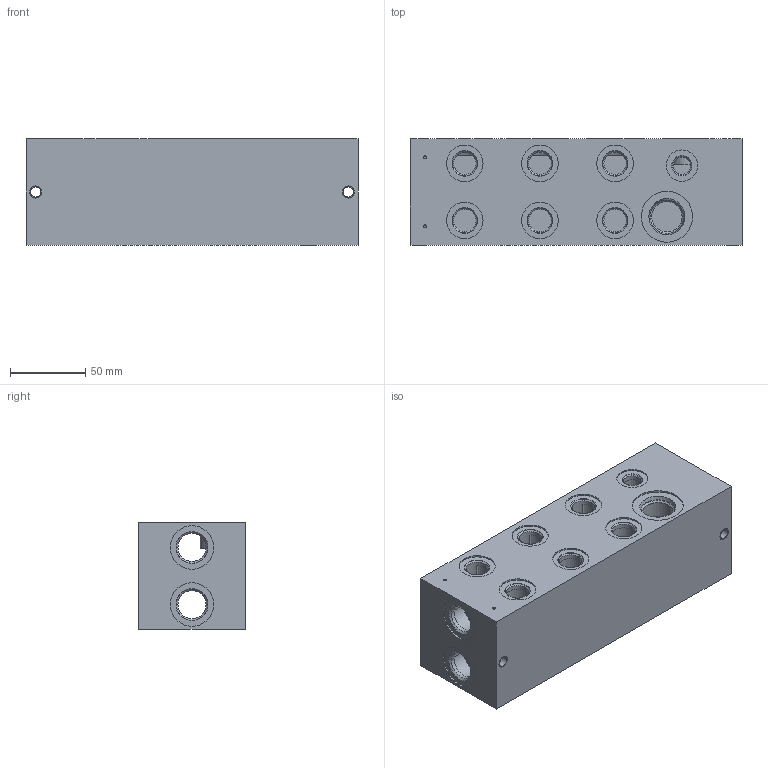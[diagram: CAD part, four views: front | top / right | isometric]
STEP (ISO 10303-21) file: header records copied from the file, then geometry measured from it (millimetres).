
FILE_DESCRIPTION((''),'2;1');
FILE_NAME('27564500','2015-11-27T',('Ahcz.brigadnik05'),(''),'PRO/ENGINEER BY PARAMETRIC TECHNOLOGY CORPORATION, 2015110','PRO/ENGINEER BY PARAMETRIC TECHNOLOGY CORPORATION, 2015110','');
FILE_SCHEMA(('AUTOMOTIVE_DESIGN { 1 0 10303 214 1 1 1 1 }'));
Length unit declared in the file: millimetre
Products named in the file (1): 27564500
Bounding box: 221 x 71 x 71 mm (x, y, z)
Volume: 370442.2 mm3; surface area: 146597.5 mm2
Topology: 1 solids, 32 shells, 286 faces, 1072 edges, 1015 vertices
Faces by surface type: cylinder 187, plane 60, cone 39
Entity records: 15763 total; most frequent: CARTESIAN_POINT 3038, DIRECTION 2036, ORIENTED_EDGE 1414, PRESENTATION_STYLE_ASSIGNMENT 1139, STYLED_ITEM 1139, CURVE_STYLE 1101, EDGE_CURVE 769, AXIS2_PLACEMENT_3D 734
